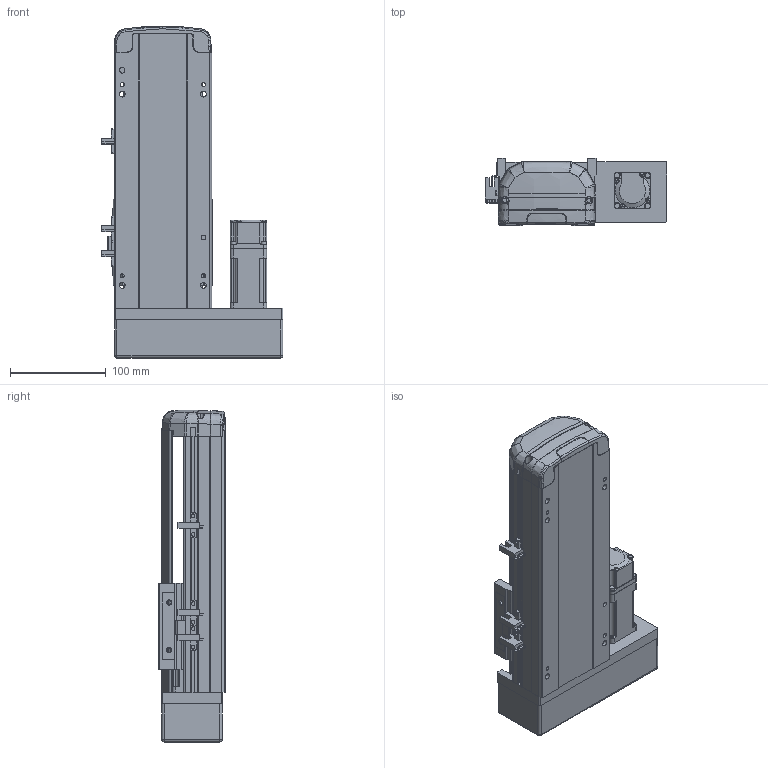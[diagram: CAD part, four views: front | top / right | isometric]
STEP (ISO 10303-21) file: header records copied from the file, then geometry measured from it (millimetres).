
FILE_DESCRIPTION (( 'STEP AP214' ), '1' );
FILE_NAME ('RTH10-XX-100-R-M10-C4.STEP', '2025-10-25T05:51:30', ( 'Microsoft' ), ( 'Microsoft' ), 'SwSTEP 2.0', 'SolidWorks 2018', '' );
FILE_SCHEMA (( 'AUTOMOTIVE_DESIGN' ));
Length unit declared in the file: millimetre
Products named in the file (10): N_RTH12-L-018-裔赽^RTH10-XX-100-R-M10-C4; N_OMRON EE-SX672 传感器^RTH10-XX-100-R-M10-C4; N_RTH12-M-007P-奻裔^RTH10-XX-100-R-M10-C4; N_RTH12-GY-001P^RTH10-XX-100-R-M10-C4; N_RTH12-M-011P-臏倰第菁釱^RTH10-XX-100-R-M10-C4; N_RTH12-GY-004-賑釱^RTH10-XX-100-R-M10-C4; N_P10^RTH10-XX-100-R-M10-C4; RTH10-XX-100-R-M10-C4; N_RTH13-L-012覜茼え俋离^RTH10-XX-100-R-M10-C4; N_RTH12-L-008萇儂啣^RTH10-XX-100-R-M10-C4
Assembly tree (11 placements, depth 2):
  RTH10-XX-100-R-M10-C4
    N_RTH12-M-011P-臏倰第菁釱^RTH10-XX-100-R-M10-C4
    N_RTH13-L-012覜茼え俋离^RTH10-XX-100-R-M10-C4
    N_OMRON EE-SX672 传感器^RTH10-XX-100-R-M10-C4  x3
    N_P10^RTH10-XX-100-R-M10-C4
    N_RTH12-M-007P-奻裔^RTH10-XX-100-R-M10-C4
    N_RTH12-L-008萇儂啣^RTH10-XX-100-R-M10-C4
    N_RTH12-L-018-裔赽^RTH10-XX-100-R-M10-C4
    N_RTH12-GY-004-賑釱^RTH10-XX-100-R-M10-C4
    N_RTH12-GY-001P^RTH10-XX-100-R-M10-C4
Bounding box: 190 x 70 x 347.31 mm (x, y, z)
Volume: 1914420.2 mm3; surface area: 314645.1 mm2
Topology: 10 solids, 12 shells, 1860 faces, 5158 edges, 3381 vertices
Faces by surface type: plane 935, bspline 472, cylinder 418, cone 29, sphere 4, torus 2
Entity records: 55238 total; most frequent: CARTESIAN_POINT 22429, ORIENTED_EDGE 7388, DIRECTION 5580, EDGE_CURVE 3700, VERTEX_POINT 2425, LINE 1964, VECTOR 1964, AXIS2_PLACEMENT_3D 1808
